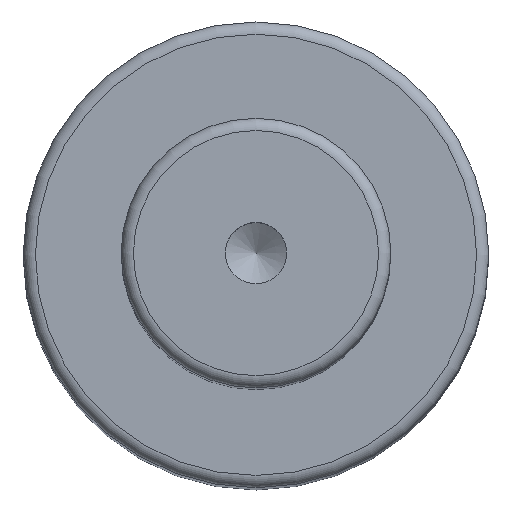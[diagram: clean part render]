
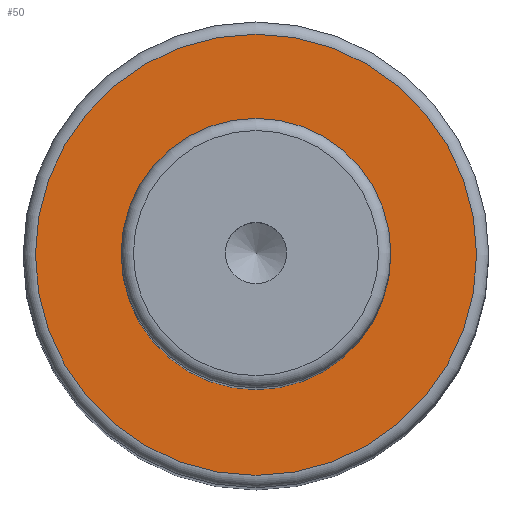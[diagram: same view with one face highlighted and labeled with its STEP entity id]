
A CAD part, top view. The second image highlights one B-rep face of the part: STEP entity #50.
In plain terms, the highlighted planar face has unit normal (0, 0, 1).
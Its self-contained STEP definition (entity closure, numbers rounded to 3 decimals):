
#40=PLANE('',#179);
#50=ADVANCED_FACE('',(#72,#73),#40,.F.);
#72=FACE_BOUND('',#96,.T.);
#73=FACE_BOUND('',#97,.T.);
#96=EDGE_LOOP('',(#118));
#97=EDGE_LOOP('',(#119));
#118=ORIENTED_EDGE('',*,*,#149,.F.);
#119=ORIENTED_EDGE('',*,*,#148,.T.);
#135=VERTEX_POINT('',#256);
#136=VERTEX_POINT('',#259);
#148=EDGE_CURVE('',#135,#135,#159,.T.);
#149=EDGE_CURVE('',#136,#136,#160,.T.);
#159=CIRCLE('',#176,11.);
#160=CIRCLE('',#178,18.);
#176=AXIS2_PLACEMENT_3D('',#255,#213,#214);
#178=AXIS2_PLACEMENT_3D('',#258,#217,#218);
#179=AXIS2_PLACEMENT_3D('',#260,#219,#220);
#213=DIRECTION('',(0.,0.,-1.));
#214=DIRECTION('',(-1.,0.,0.));
#217=DIRECTION('',(0.,0.,-1.));
#218=DIRECTION('',(-1.,0.,0.));
#219=DIRECTION('',(0.,0.,-1.));
#220=DIRECTION('',(-1.,0.,0.));
#255=CARTESIAN_POINT('',(0.,0.,109.));
#256=CARTESIAN_POINT('',(-11.,0.,109.));
#258=CARTESIAN_POINT('',(0.,0.,109.));
#259=CARTESIAN_POINT('',(-18.,0.,109.));
#260=CARTESIAN_POINT('',(11.,0.,109.));
